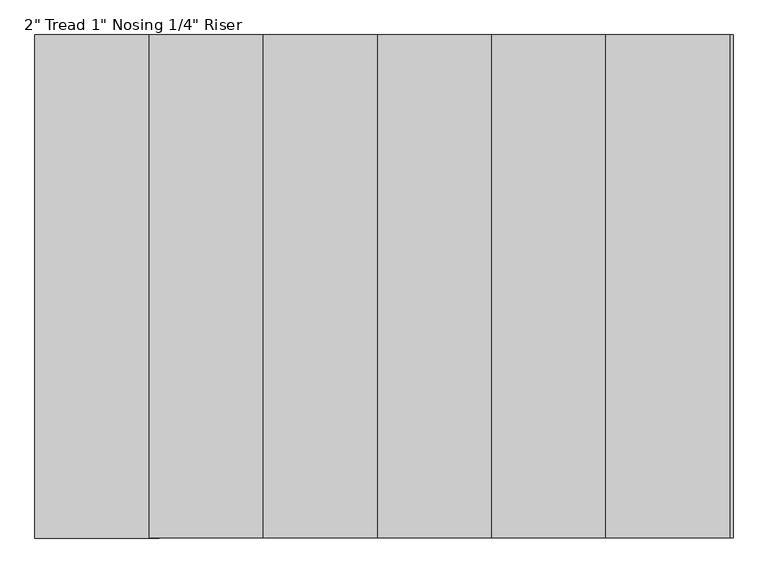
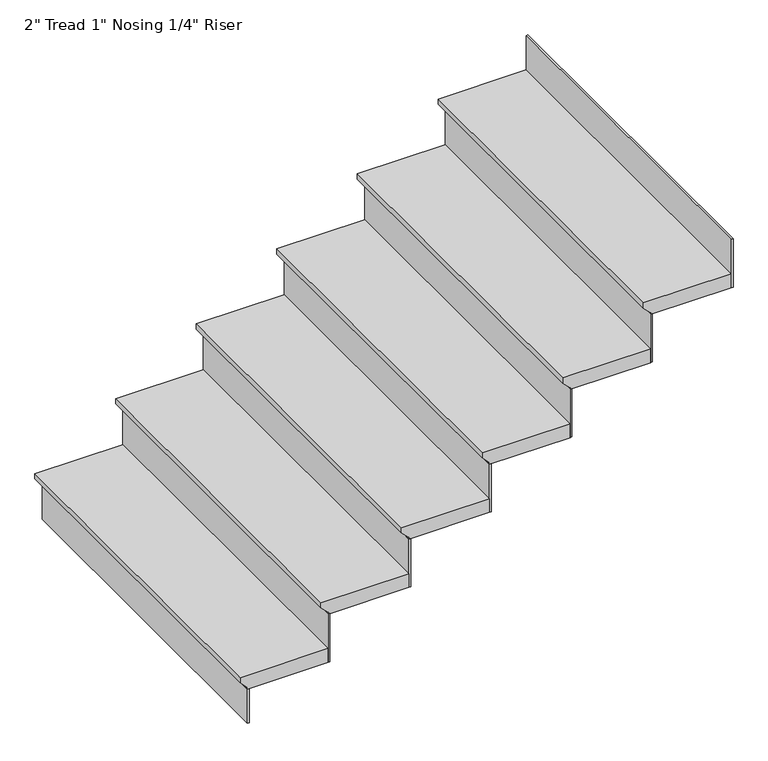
"""IFC4 building model written with IfcOpenShell, lengths in millimetres: stair flight geometry."""

import ifcopenshell
import ifcopenshell.guid

model = None  # the IFC model being written
_history = None  # IfcOwnerHistory: only IFC2X3 demands one
_inside = {}  # id of a spatial element -> (the spatial element, [elements in it])
_under = {}  # id of a project, library or spatial element -> (it, [spatial elements below it])
_declared = {}  # id of a project -> (the project, [libraries it declares])
_typed = {}  # id of a type object -> (the type object, [elements of that type])
_made_of = {}  # id of a material, layer set ... -> (it, [elements and type objects made of it])


def new_model(schema):
    """Start an empty IFC model of exactly this schema.

    Asked for "IFC4X3", IfcOpenShell would pick the latest addendum, in which some entities
    have other attributes; the version numbers below select the first issue.
    IFC2X3 requires an IfcOwnerHistory on every rooted entity: one is made here for all.
    """
    global model, _history
    if schema == "IFC4X3":
        model = ifcopenshell.file(schema_version=(4, 3, 0, 0))
    else:
        model = ifcopenshell.file(schema=schema)
    _inside.clear()
    _under.clear()
    _declared.clear()
    _typed.clear()
    _made_of.clear()
    _history = None
    if model.schema == "IFC2X3":
        org = make("IfcOrganization", Name="unknown")
        user = make(
            "IfcPersonAndOrganization",
            ThePerson=make("IfcPerson", FamilyName="unknown"),
            TheOrganization=org,
        )
        app = make(
            "IfcApplication",
            ApplicationDeveloper=org,
            Version="unknown",
            ApplicationFullName="unknown",
            ApplicationIdentifier="unknown",
        )
        _history = make(
            "IfcOwnerHistory",
            OwningUser=user,
            OwningApplication=app,
            ChangeAction="ADDED",
            CreationDate=0,
        )
    return model


def make(cls, **values):
    """One entity of the class cls with the attributes given. An attribute that is None is left unset."""
    return model.create_entity(
        cls, **{name: value for name, value in values.items() if value is not None}
    )


def rooted(cls, **values):
    """An entity with a GlobalId (a new one), such as an element, a storey or a relation."""
    return make(cls, GlobalId=ifcopenshell.guid.new(), OwnerHistory=_history, **values)


def si_unit(unit_type, name, prefix=None):
    """IfcSIUnit, for example si_unit("LENGTHUNIT", "METRE", prefix="MILLI")."""
    return make("IfcSIUnit", UnitType=unit_type, Prefix=prefix, Name=name)


def assignment(units):
    """IfcUnitAssignment: the units of a project."""
    return None if units is None else make("IfcUnitAssignment", Units=units)


def point(xyz):
    """IfcCartesianPoint."""
    return None if xyz is None else make("IfcCartesianPoint", Coordinates=xyz)


def direction(xyz):
    """IfcDirection."""
    return None if xyz is None else make("IfcDirection", DirectionRatios=xyz)


def frame(location, z_axis=None, x_axis=None):
    """IfcAxis2Placement3D, a coordinate frame: its origin and axes. An axis left out is left unset."""
    return make(
        "IfcAxis2Placement3D",
        Location=point(location),
        Axis=direction(z_axis),
        RefDirection=direction(x_axis),
    )


def origin():
    """The frame at (0, 0, 0) with its axes left unset."""
    return frame((0.0, 0.0, 0.0))


def place(relative_to, where):
    """IfcLocalPlacement: puts the frame where relative to a parent placement (None: the world)."""
    return make(
        "IfcLocalPlacement", PlacementRelTo=relative_to, RelativePlacement=where
    )


def context(
    kind, dimensions, precision=None, world=None, true_north=None, identifier=None
):
    """IfcGeometricRepresentationContext, for example the 3D "Model" context."""
    return make(
        "IfcGeometricRepresentationContext",
        ContextIdentifier=identifier,
        ContextType=kind,
        CoordinateSpaceDimension=dimensions,
        Precision=precision,
        WorldCoordinateSystem=world,
        TrueNorth=true_north,
    )


def project(units=None, contexts=None):
    """IfcProject with its units and contexts."""
    return rooted(
        "IfcProject",
        Name="project",
        RepresentationContexts=contexts,
        UnitsInContext=assignment(units),
    )


def spatial(cls, under=None, at=None, **own):
    """A site, building, storey or space (cls), placed at a placement, below another one or the project."""
    s = rooted(cls, ObjectPlacement=at, **own)
    if under is not None:
        _under.setdefault(under.id(), (under, []))[1].append(s)
    return s


def faces_of(points, faces, orient=None, outer=None):
    """IfcFace entities. A face is a list of loops; a loop is a list of indices into points, from 0.

    orient and outer hold one flag for each loop. By default every Orientation is true, the
    first loop of a face is its IfcFaceOuterBound and the others are IfcFaceBound.
    """
    made = []
    for i, loops in enumerate(faces):
        bounds = []
        for j, loop in enumerate(loops):
            is_outer = j == 0 if outer is None else outer[i][j]
            bounds.append(
                make(
                    "IfcFaceOuterBound" if is_outer else "IfcFaceBound",
                    Bound=make("IfcPolyLoop", Polygon=[points[k] for k in loop]),
                    Orientation=True if orient is None else orient[i][j],
                )
            )
        made.append(make("IfcFace", Bounds=bounds))
    return made


def faceted_brep(points, faces, orient=None, outer=None, voids=None):
    """IfcFacetedBrep: a solid bounded by flat faces; with voids (closed shells), ...WithVoids."""
    shared = [point(p) for p in points]
    hull = make("IfcClosedShell", CfsFaces=faces_of(shared, faces, orient, outer))
    if voids is None:
        return make("IfcFacetedBrep", Outer=hull)
    return make(
        "IfcFacetedBrepWithVoids",
        Outer=hull,
        Voids=[
            make(cls, CfsFaces=faces_of(shared, fs, o, b)) for cls, fs, o, b in voids
        ],
    )


def shape(context_of_items, identifier, shape_type, items):
    """IfcShapeRepresentation: the items that make up one representation, for example the "Body"."""
    return make(
        "IfcShapeRepresentation",
        ContextOfItems=context_of_items,
        RepresentationIdentifier=identifier,
        RepresentationType=shape_type,
        Items=items,
    )


def source(mapping_origin, context_of_items, identifier, shape_type, items):
    """IfcRepresentationMap: a shape defined once, which mapped items show again and again."""
    return make(
        "IfcRepresentationMap",
        MappingOrigin=mapping_origin,
        MappedRepresentation=shape(context_of_items, identifier, shape_type, items),
    )


def transform(
    local_origin,
    x_axis=None,
    y_axis=None,
    z_axis=None,
    scale=None,
    scale2=None,
    scale3=None,
    uniform=True,
):
    """IfcCartesianTransformationOperator3D, or its non-uniform kind. x_axis, y_axis, z_axis: its Axis1, 2, 3."""
    if uniform:
        return make(
            "IfcCartesianTransformationOperator3D",
            Axis1=direction(x_axis),
            Axis2=direction(y_axis),
            LocalOrigin=point(local_origin),
            Scale=scale,
            Axis3=direction(z_axis),
        )
    return make(
        "IfcCartesianTransformationOperator3DnonUniform",
        Axis1=direction(x_axis),
        Axis2=direction(y_axis),
        LocalOrigin=point(local_origin),
        Scale=scale,
        Axis3=direction(z_axis),
        Scale2=scale2,
        Scale3=scale3,
    )


def mapped(mapping_source, mapping_target):
    """IfcMappedItem: shows the shape of a source again, moved by a transform."""
    return make(
        "IfcMappedItem", MappingSource=mapping_source, MappingTarget=mapping_target
    )


def made_of(thing, what):
    """Note that an element or type object is made of a material, layer set ...; save() writes the relation."""
    if what is not None:
        _made_of.setdefault(what.id(), (what, []))[1].append(thing)
    return thing


def element(
    cls,
    number,
    at=None,
    inside=None,
    cuts=None,
    type_object=None,
    material=None,
    context=None,
    identifier="Body",
    shape_type=None,
    held_by="IfcProductDefinitionShape",
    body=None,
    shapes=None,
    **own,
):
    """One element of the class cls, such as IfcWall. Its Tag is "e" and its number.

    at: its placement. inside: the storey or other place that contains it. cuts: it is an
    opening in that element (IfcRelVoidsElement). A single representation is given by context,
    identifier, shape_type and body (its items); several are given by shapes. held_by: the class
    of the entity that holds the representations. save() writes the other relations.
    """
    e = rooted(cls, Tag="e%d" % number, ObjectPlacement=at, **own)
    if body is not None:
        shapes = [shape(context, identifier, shape_type, body)]
    if shapes is not None:
        e.Representation = make(held_by, Representations=shapes)
    if inside is not None:
        _inside.setdefault(inside.id(), (inside, []))[1].append(e)
    if cuts is not None:
        rooted(
            "IfcRelVoidsElement", RelatingBuildingElement=cuts, RelatedOpeningElement=e
        )
    if type_object is not None:
        _typed.setdefault(type_object.id(), (type_object, []))[1].append(e)
    return made_of(e, material)


def aggregate(whole, parts):
    """IfcRelAggregates: a whole, such as a stair, and the parts it consists of."""
    return rooted("IfcRelAggregates", RelatingObject=whole, RelatedObjects=parts)


def save(model, path):
    """Write the relations noted so far, then the file.

    IfcRelAggregates (storeys below a building ...), IfcRelContainedInSpatialStructure (elements
    in a storey), IfcRelDefinesByType, IfcRelAssociatesMaterial and IfcRelDeclares: one each for
    every whole, place, type object, material and project.
    """
    for whole, parts in _under.values():
        aggregate(whole, parts)
    for where, things in _inside.values():
        rooted(
            "IfcRelContainedInSpatialStructure",
            RelatedElements=things,
            RelatingStructure=where,
        )
    for kind, things in _typed.values():
        rooted("IfcRelDefinesByType", RelatedObjects=things, RelatingType=kind)
    for what, things in _made_of.values():
        rooted("IfcRelAssociatesMaterial", RelatedObjects=things, RelatingMaterial=what)
    for by, libraries in _declared.values():
        rooted("IfcRelDeclares", RelatingContext=by, RelatedDefinitions=libraries)
    model.write(path)


def stair_flight_7fb2988c(model_context):
    return source(origin(), model_context, "Body", "Brep", [
        faceted_brep([(11696.7000296, 28295.6058669, 310.0456522), (11696.7000296, 28295.6058669, 329.0956522), (11696.7000296, 29527.4998803, 329.0956522), (11696.7000296, 29527.4998803, 310.0456522), (11722.1000296, 28295.6058669, 284.6456522), (11722.1000296, 29527.4998803, 284.6456522), (12001.5000296, 28295.6058669, 329.0956522), (12001.5000296, 29527.4998803, 329.0956522), (11722.1000296, 29527.4998803, 278.2956522), (12001.5000296, 29527.4998803, 278.2956522), (12001.5000296, 28295.6058669, 278.2956522), (11722.1000296, 28295.6058669, 278.2956522)], [[[0, 1, 2, 3]], [[4, 0, 3, 5]], [[2, 1, 6, 7]], [[8, 9, 10, 11]], [[2, 7, 9, 8, 5, 3]], [[8, 11, 4, 5]], [[6, 1, 0, 4, 11, 10]], [[7, 6, 10, 9]]]),
        faceted_brep([(11722.1000296, 28295.6058669, 278.2956522), (11722.1000296, 28295.6058669, 152.4), (11728.4500296, 28295.6058669, 152.4), (11728.4500296, 28295.6058669, 278.2956522), (11722.1000296, 29527.4998803, 278.2956522), (11728.4500296, 29527.4998803, 278.2956522), (11728.4500296, 29527.4998803, 152.4), (11722.1000296, 29527.4998803, 152.4)], [[[0, 1, 2, 3]], [[4, 5, 6, 7]], [[1, 0, 4, 7]], [[2, 1, 7, 6]], [[3, 2, 6, 5]], [[0, 3, 5, 4]]]),
        faceted_brep([(12001.5000296, 28295.6058669, 454.9913043), (12001.5000296, 28295.6058669, 278.2956522), (12007.8500296, 28295.6058669, 278.2956522), (12007.8500296, 28295.6058669, 454.9913043), (12001.5000296, 29527.4998803, 454.9913043), (12007.8500296, 29527.4998803, 454.9913043), (12007.8500296, 29527.4998803, 278.2956522), (12001.5000296, 29527.4998803, 278.2956522)], [[[0, 1, 2, 3]], [[4, 5, 6, 7]], [[1, 0, 4, 7]], [[2, 1, 7, 6]], [[3, 2, 6, 5]], [[0, 3, 5, 4]]]),
        faceted_brep([(11976.1000296, 29527.4998803, 505.7913043), (11976.1000296, 28295.6058669, 505.7913043), (12280.9000296, 28295.6058669, 505.7913043), (12280.9000296, 29527.4998803, 505.7913043), (12001.5000296, 29527.4998803, 454.9913043), (12280.9000296, 29527.4998803, 454.9913043), (12280.9000296, 28295.6058669, 454.9913043), (12001.5000296, 28295.6058669, 454.9913043), (12001.5000296, 29527.4998803, 461.3413043), (11976.1000296, 29527.4998803, 486.7413043), (12001.5000296, 28295.6058669, 461.3413043), (11976.1000296, 28295.6058669, 486.7413043)], [[[0, 1, 2, 3]], [[4, 5, 6, 7]], [[0, 3, 5, 4, 8, 9]], [[4, 7, 10, 8]], [[2, 1, 11, 10, 7, 6]], [[3, 2, 6, 5]], [[11, 1, 0, 9]], [[10, 11, 9, 8]]]),
        faceted_brep([(12280.9000296, 28295.6058669, 631.6869565), (12280.9000296, 28295.6058669, 454.9913043), (12287.2500296, 28295.6058669, 454.9913043), (12287.2500296, 28295.6058669, 631.6869565), (12280.9000296, 29527.4998803, 631.6869565), (12287.2500296, 29527.4998803, 631.6869565), (12287.2500296, 29527.4998803, 454.9913043), (12280.9000296, 29527.4998803, 454.9913043)], [[[0, 1, 2, 3]], [[4, 5, 6, 7]], [[1, 0, 4, 7]], [[2, 1, 7, 6]], [[3, 2, 6, 5]], [[0, 3, 5, 4]]]),
        faceted_brep([(12255.5000296, 29527.4998803, 682.4869565), (12255.5000296, 28295.6058669, 682.4869565), (12560.3000296, 28295.6058669, 682.4869565), (12560.3000296, 29527.4998803, 682.4869565), (12280.9000296, 29527.4998803, 631.6869565), (12560.3000296, 29527.4998803, 631.6869565), (12560.3000296, 28295.6058669, 631.6869565), (12280.9000296, 28295.6058669, 631.6869565), (12280.9000296, 29527.4998803, 638.0369565), (12255.5000296, 29527.4998803, 663.4369565), (12280.9000296, 28295.6058669, 638.0369565), (12255.5000296, 28295.6058669, 663.4369565)], [[[0, 1, 2, 3]], [[4, 5, 6, 7]], [[0, 3, 5, 4, 8, 9]], [[4, 7, 10, 8]], [[2, 1, 11, 10, 7, 6]], [[3, 2, 6, 5]], [[11, 1, 0, 9]], [[10, 11, 9, 8]]]),
        faceted_brep([(12560.3000296, 28295.6058669, 808.3826087), (12560.3000296, 28295.6058669, 631.6869565), (12566.6500296, 28295.6058669, 631.6869565), (12566.6500296, 28295.6058669, 808.3826087), (12560.3000296, 29527.4998803, 808.3826087), (12566.6500296, 29527.4998803, 808.3826087), (12566.6500296, 29527.4998803, 631.6869565), (12560.3000296, 29527.4998803, 631.6869565)], [[[0, 1, 2, 3]], [[4, 5, 6, 7]], [[1, 0, 4, 7]], [[2, 1, 7, 6]], [[3, 2, 6, 5]], [[0, 3, 5, 4]]]),
        faceted_brep([(12534.9000296, 29527.4998803, 859.1826087), (12534.9000296, 28295.6058669, 859.1826087), (12839.7000296, 28295.6058669, 859.1826087), (12839.7000296, 29527.4998803, 859.1826087), (12560.3000296, 29527.4998803, 808.3826087), (12839.7000296, 29527.4998803, 808.3826087), (12839.7000296, 28295.6058669, 808.3826087), (12560.3000296, 28295.6058669, 808.3826087), (12560.3000296, 29527.4998803, 814.7326087), (12534.9000296, 29527.4998803, 840.1326087), (12560.3000296, 28295.6058669, 814.7326087), (12534.9000296, 28295.6058669, 840.1326087)], [[[0, 1, 2, 3]], [[4, 5, 6, 7]], [[0, 3, 5, 4, 8, 9]], [[4, 7, 10, 8]], [[2, 1, 11, 10, 7, 6]], [[3, 2, 6, 5]], [[11, 1, 0, 9]], [[10, 11, 9, 8]]]),
        faceted_brep([(12839.7000296, 28295.6058669, 985.0782609), (12839.7000296, 28295.6058669, 808.3826087), (12846.0500296, 28295.6058669, 808.3826087), (12846.0500296, 28295.6058669, 985.0782609), (12839.7000296, 29527.4998803, 985.0782609), (12846.0500296, 29527.4998803, 985.0782609), (12846.0500296, 29527.4998803, 808.3826087), (12839.7000296, 29527.4998803, 808.3826087)], [[[0, 1, 2, 3]], [[4, 5, 6, 7]], [[1, 0, 4, 7]], [[2, 1, 7, 6]], [[3, 2, 6, 5]], [[0, 3, 5, 4]]]),
        faceted_brep([(12814.3000296, 29527.4998803, 1035.8782609), (12814.3000296, 28295.6058669, 1035.8782609), (13119.1000296, 28295.6058669, 1035.8782609), (13119.1000296, 29527.4998803, 1035.8782609), (12839.7000296, 29527.4998803, 985.0782609), (13119.1000296, 29527.4998803, 985.0782609), (13119.1000296, 28295.6058669, 985.0782609), (12839.7000296, 28295.6058669, 985.0782609), (12839.7000296, 29527.4998803, 991.4282609), (12814.3000296, 29527.4998803, 1016.8282609), (12839.7000296, 28295.6058669, 991.4282609), (12814.3000296, 28295.6058669, 1016.8282609)], [[[0, 1, 2, 3]], [[4, 5, 6, 7]], [[0, 3, 5, 4, 8, 9]], [[4, 7, 10, 8]], [[2, 1, 11, 10, 7, 6]], [[3, 2, 6, 5]], [[11, 1, 0, 9]], [[10, 11, 9, 8]]]),
        faceted_brep([(13119.1000296, 28295.6058669, 1161.773913), (13119.1000296, 28295.6058669, 985.0782609), (13125.4500296, 28295.6058669, 985.0782609), (13125.4500296, 28295.6058669, 1161.773913), (13119.1000296, 29527.4998803, 1161.773913), (13125.4500296, 29527.4998803, 1161.773913), (13125.4500296, 29527.4998803, 985.0782609), (13119.1000296, 29527.4998803, 985.0782609)], [[[0, 1, 2, 3]], [[4, 5, 6, 7]], [[1, 0, 4, 7]], [[2, 1, 7, 6]], [[3, 2, 6, 5]], [[0, 3, 5, 4]]]),
        faceted_brep([(13398.5000296, 28295.6058669, 1338.4695652), (13398.5000296, 28295.6058669, 1161.773913), (13404.8500296, 28295.6058669, 1161.773913), (13404.8500296, 28295.6058669, 1338.4695652), (13398.5000296, 29527.4998803, 1338.4695652), (13404.8500296, 29527.4998803, 1338.4695652), (13404.8500296, 29527.4998803, 1161.773913), (13398.5000296, 29527.4998803, 1161.773913)], [[[0, 1, 2, 3]], [[4, 5, 6, 7]], [[1, 0, 4, 7]], [[2, 1, 7, 6]], [[3, 2, 6, 5]], [[0, 3, 5, 4]]]),
        faceted_brep([(13398.5000296, 29527.4998803, 1212.573913), (13373.1000296, 29527.4998803, 1212.573913), (13093.7000296, 29527.4998803, 1212.573913), (13093.7000296, 28295.6058669, 1212.573913), (13398.5000296, 28295.6058669, 1212.573913), (13373.1000296, 29527.4998803, 1161.773913), (13398.5000296, 29527.4998803, 1161.773913), (13398.5000296, 28295.6058669, 1161.773913), (13119.1000296, 28295.6058669, 1161.773913), (13119.1000296, 29527.4998803, 1161.773913), (13119.1000296, 29527.4998803, 1168.123913), (13093.7000296, 29527.4998803, 1193.523913), (13119.1000296, 28295.6058669, 1168.123913), (13093.7000296, 28295.6058669, 1193.523913)], [[[0, 1, 2, 3, 4]], [[5, 6, 7, 8, 9]], [[1, 0, 6, 5]], [[2, 1, 5, 9, 10, 11]], [[9, 8, 12, 10]], [[4, 3, 13, 12, 8, 7]], [[0, 4, 7, 6]], [[13, 3, 2, 11]], [[12, 13, 11, 10]]]),
    ])


if __name__ == "__main__":
    model = new_model("IFC4")
    model_context = context("Model", 3, world=origin())
    ifc_project = project(units=[si_unit("LENGTHUNIT", "METRE", prefix="MILLI")], contexts=[model_context])
    site = spatial("IfcSite", under=ifc_project)
    building = spatial("IfcBuilding", under=site)
    placement = place(None, origin())
    stair_flight_shape = stair_flight_7fb2988c(model_context)
    element("IfcStairFlight", 1, ObjectType="2\" Tread 1\" Nosing 1/4\" Riser", at=placement, inside=building, context=model_context, shape_type="MappedRepresentation", body=[
        mapped(stair_flight_shape, transform((0.0, 0.0, 0.0), x_axis=(1.0, 0.0, 0.0), y_axis=(0.0, 1.0, 0.0), z_axis=(0.0, 0.0, 1.0))),
    ])
    save(model, "model.ifc")
